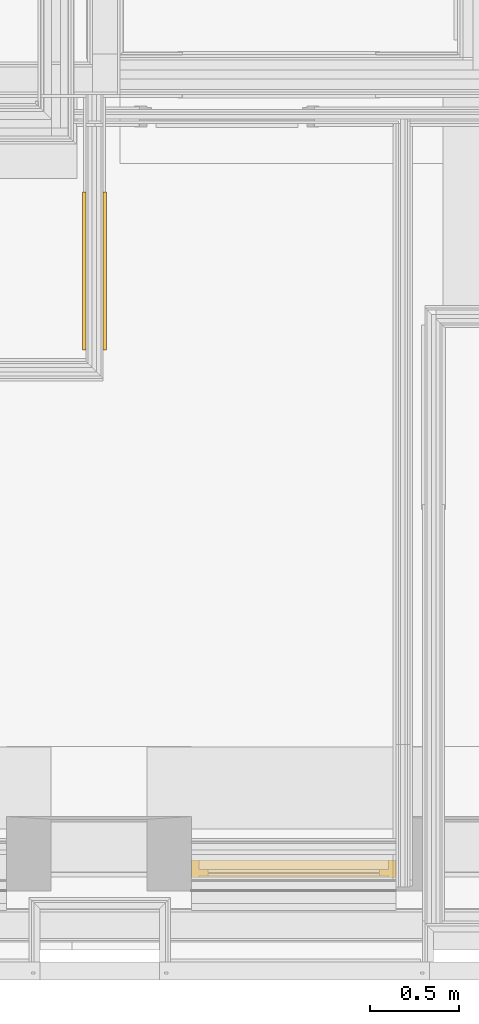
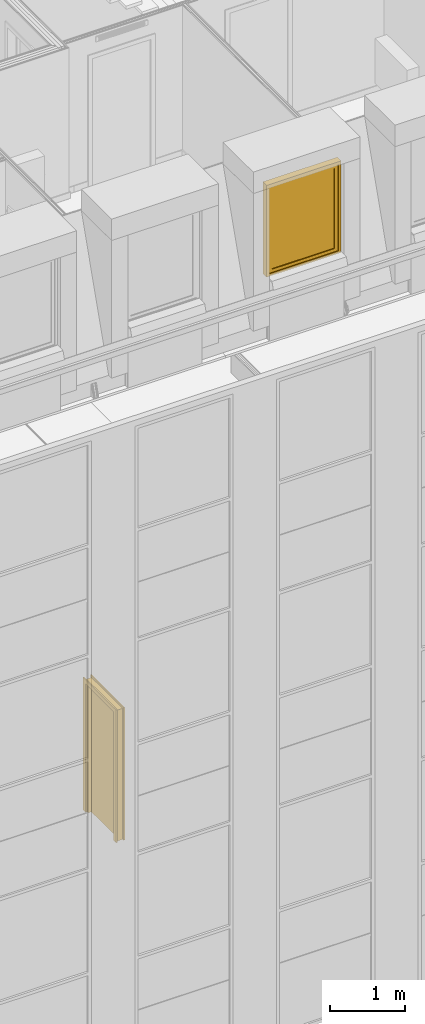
# One storey, part 123 of 169: 1 door, 1 window.
"""IFC2X3 building model written with IfcOpenShell, lengths in metres."""

import ifcopenshell
import ifcopenshell.guid

model = None  # the IFC model being written
_history = None  # IfcOwnerHistory: only IFC2X3 demands one
_inside = {}  # id of a spatial element -> (the spatial element, [elements in it])
_under = {}  # id of a project, library or spatial element -> (it, [spatial elements below it])
_declared = {}  # id of a project -> (the project, [libraries it declares])
_typed = {}  # id of a type object -> (the type object, [elements of that type])
_made_of = {}  # id of a material, layer set ... -> (it, [elements and type objects made of it])


def new_model(schema):
    """Start an empty IFC model of exactly this schema.

    Asked for "IFC4X3", IfcOpenShell would pick the latest addendum, in which some entities
    have other attributes; the version numbers below select the first issue.
    IFC2X3 requires an IfcOwnerHistory on every rooted entity: one is made here for all.
    """
    global model, _history
    if schema == "IFC4X3":
        model = ifcopenshell.file(schema_version=(4, 3, 0, 0))
    else:
        model = ifcopenshell.file(schema=schema)
    _inside.clear()
    _under.clear()
    _declared.clear()
    _typed.clear()
    _made_of.clear()
    _history = None
    if model.schema == "IFC2X3":
        org = make("IfcOrganization", Name="unknown")
        user = make(
            "IfcPersonAndOrganization",
            ThePerson=make("IfcPerson", FamilyName="unknown"),
            TheOrganization=org,
        )
        app = make(
            "IfcApplication",
            ApplicationDeveloper=org,
            Version="unknown",
            ApplicationFullName="unknown",
            ApplicationIdentifier="unknown",
        )
        _history = make(
            "IfcOwnerHistory",
            OwningUser=user,
            OwningApplication=app,
            ChangeAction="ADDED",
            CreationDate=0,
        )
    return model


def make(cls, **values):
    """One entity of the class cls with the attributes given. An attribute that is None is left unset."""
    return model.create_entity(
        cls, **{name: value for name, value in values.items() if value is not None}
    )


def entity(cls, *values):
    """Any entity or typed value of the class cls, its attributes in the order of the schema. None: left unset."""
    e = model.create_entity(cls)
    for i, value in enumerate(values):
        if value is not None:
            e[i] = value
    return e


def rooted(cls, **values):
    """An entity with a GlobalId (a new one), such as an element, a storey or a relation."""
    return make(cls, GlobalId=ifcopenshell.guid.new(), OwnerHistory=_history, **values)


def si_unit(unit_type, name, prefix=None):
    """IfcSIUnit, for example si_unit("LENGTHUNIT", "METRE", prefix="MILLI")."""
    return make("IfcSIUnit", UnitType=unit_type, Prefix=prefix, Name=name)


def converted_unit(unit_type, name, factor, base, dimensions=None, offset=None):
    """IfcConversionBasedUnit, such as the inch: factor (a typed value) times the base unit."""
    return make(
        "IfcConversionBasedUnit"
        if offset is None
        else "IfcConversionBasedUnitWithOffset",
        ConversionOffset=offset,
        Dimensions=None
        if dimensions is None
        else entity("IfcDimensionalExponents", *dimensions),
        UnitType=unit_type,
        Name=name,
        ConversionFactor=make(
            "IfcMeasureWithUnit", ValueComponent=factor, UnitComponent=base
        ),
    )


def derived_unit(unit_type, elements):
    """IfcDerivedUnit: a product of units, each with its exponent."""
    return make(
        "IfcDerivedUnit",
        Elements=[
            make("IfcDerivedUnitElement", Unit=unit, Exponent=power)
            for unit, power in elements
        ],
        UnitType=unit_type,
    )


def money_unit(currency):
    """IfcMonetaryUnit."""
    return make("IfcMonetaryUnit", Currency=currency)


def assignment(units):
    """IfcUnitAssignment: the units of a project."""
    return None if units is None else make("IfcUnitAssignment", Units=units)


def point(xyz):
    """IfcCartesianPoint."""
    return None if xyz is None else make("IfcCartesianPoint", Coordinates=xyz)


def direction(xyz):
    """IfcDirection."""
    return None if xyz is None else make("IfcDirection", DirectionRatios=xyz)


def frame(location, z_axis=None, x_axis=None):
    """IfcAxis2Placement3D, a coordinate frame: its origin and axes. An axis left out is left unset."""
    return make(
        "IfcAxis2Placement3D",
        Location=point(location),
        Axis=direction(z_axis),
        RefDirection=direction(x_axis),
    )


def origin_with_axes():
    """The frame at (0, 0, 0) with the z axis (0, 0, 1) and the x axis (1, 0, 0) written out."""
    return frame((0.0, 0.0, 0.0), z_axis=(0.0, 0.0, 1.0), x_axis=(1.0, 0.0, 0.0))


def place(relative_to, where):
    """IfcLocalPlacement: puts the frame where relative to a parent placement (None: the world)."""
    return make(
        "IfcLocalPlacement", PlacementRelTo=relative_to, RelativePlacement=where
    )


def context(
    kind, dimensions, precision=None, world=None, true_north=None, identifier=None
):
    """IfcGeometricRepresentationContext, for example the 3D "Model" context."""
    return make(
        "IfcGeometricRepresentationContext",
        ContextIdentifier=identifier,
        ContextType=kind,
        CoordinateSpaceDimension=dimensions,
        Precision=precision,
        WorldCoordinateSystem=world,
        TrueNorth=true_north,
    )


def subcontext(parent, identifier, kind, view, scale=None):
    """IfcGeometricRepresentationSubContext, for example "Body" below "Model"."""
    return make(
        "IfcGeometricRepresentationSubContext",
        ContextIdentifier=identifier,
        ContextType=kind,
        ParentContext=parent,
        TargetScale=scale,
        TargetView=view,
    )


def project(units=None, contexts=None):
    """IfcProject with its units and contexts."""
    return rooted(
        "IfcProject",
        Name="project",
        RepresentationContexts=contexts,
        UnitsInContext=assignment(units),
    )


def spatial(cls, under=None, at=None, **own):
    """A site, building, storey or space (cls), placed at a placement, below another one or the project."""
    s = rooted(cls, ObjectPlacement=at, **own)
    if under is not None:
        _under.setdefault(under.id(), (under, []))[1].append(s)
    return s


def faces_of(points, faces, orient=None, outer=None):
    """IfcFace entities. A face is a list of loops; a loop is a list of indices into points, from 0.

    orient and outer hold one flag for each loop. By default every Orientation is true, the
    first loop of a face is its IfcFaceOuterBound and the others are IfcFaceBound.
    """
    made = []
    for i, loops in enumerate(faces):
        bounds = []
        for j, loop in enumerate(loops):
            is_outer = j == 0 if outer is None else outer[i][j]
            bounds.append(
                make(
                    "IfcFaceOuterBound" if is_outer else "IfcFaceBound",
                    Bound=make("IfcPolyLoop", Polygon=[points[k] for k in loop]),
                    Orientation=True if orient is None else orient[i][j],
                )
            )
        made.append(make("IfcFace", Bounds=bounds))
    return made


def faceted_brep(points, faces, orient=None, outer=None, voids=None):
    """IfcFacetedBrep: a solid bounded by flat faces; with voids (closed shells), ...WithVoids."""
    shared = [point(p) for p in points]
    hull = make("IfcClosedShell", CfsFaces=faces_of(shared, faces, orient, outer))
    if voids is None:
        return make("IfcFacetedBrep", Outer=hull)
    return make(
        "IfcFacetedBrepWithVoids",
        Outer=hull,
        Voids=[
            make(cls, CfsFaces=faces_of(shared, fs, o, b)) for cls, fs, o, b in voids
        ],
    )


def shape(context_of_items, identifier, shape_type, items):
    """IfcShapeRepresentation: the items that make up one representation, for example the "Body"."""
    return make(
        "IfcShapeRepresentation",
        ContextOfItems=context_of_items,
        RepresentationIdentifier=identifier,
        RepresentationType=shape_type,
        Items=items,
    )


def material(Name=None, Category=None):
    """IfcMaterial."""
    return make("IfcMaterial", Name=Name, Category=Category)


def made_of(thing, what):
    """Note that an element or type object is made of a material, layer set ...; save() writes the relation."""
    if what is not None:
        _made_of.setdefault(what.id(), (what, []))[1].append(thing)
    return thing


def type_object(cls, material=None, **own):
    """A type object (cls), such as IfcWallType, which elements share."""
    return made_of(rooted(cls, **own), material)


def element(
    cls,
    number,
    at=None,
    inside=None,
    cuts=None,
    type_object=None,
    material=None,
    context=None,
    identifier="Body",
    shape_type=None,
    held_by="IfcProductDefinitionShape",
    body=None,
    shapes=None,
    **own,
):
    """One element of the class cls, such as IfcWall. Its Tag is "e" and its number.

    at: its placement. inside: the storey or other place that contains it. cuts: it is an
    opening in that element (IfcRelVoidsElement). A single representation is given by context,
    identifier, shape_type and body (its items); several are given by shapes. held_by: the class
    of the entity that holds the representations. save() writes the other relations.
    """
    e = rooted(cls, Tag="e%d" % number, ObjectPlacement=at, **own)
    if body is not None:
        shapes = [shape(context, identifier, shape_type, body)]
    if shapes is not None:
        e.Representation = make(held_by, Representations=shapes)
    if inside is not None:
        _inside.setdefault(inside.id(), (inside, []))[1].append(e)
    if cuts is not None:
        rooted(
            "IfcRelVoidsElement", RelatingBuildingElement=cuts, RelatedOpeningElement=e
        )
    if type_object is not None:
        _typed.setdefault(type_object.id(), (type_object, []))[1].append(e)
    return made_of(e, material)


def aggregate(whole, parts):
    """IfcRelAggregates: a whole, such as a stair, and the parts it consists of."""
    return rooted("IfcRelAggregates", RelatingObject=whole, RelatedObjects=parts)


def save(model, path):
    """Write the relations noted so far, then the file.

    IfcRelAggregates (storeys below a building ...), IfcRelContainedInSpatialStructure (elements
    in a storey), IfcRelDefinesByType, IfcRelAssociatesMaterial and IfcRelDeclares: one each for
    every whole, place, type object, material and project.
    """
    for whole, parts in _under.values():
        aggregate(whole, parts)
    for where, things in _inside.values():
        rooted(
            "IfcRelContainedInSpatialStructure",
            RelatedElements=things,
            RelatingStructure=where,
        )
    for kind, things in _typed.values():
        rooted("IfcRelDefinesByType", RelatedObjects=things, RelatingType=kind)
    for what, things in _made_of.values():
        rooted("IfcRelAssociatesMaterial", RelatedObjects=things, RelatingMaterial=what)
    for by, libraries in _declared.values():
        rooted("IfcRelDeclares", RelatingContext=by, RelatedDefinitions=libraries)
    model.write(path)


model = new_model("IFC2X3")

# Units and contexts
model_context = context("Model", 3, precision=1e-05, world=origin_with_axes(), true_north=direction((0.0, 1.0)))
body_context = subcontext(model_context, "Body", "Model", "MODEL_VIEW", scale=1.0)
ifc_project = project(units=[si_unit("LENGTHUNIT", "METRE"), si_unit("AREAUNIT", "SQUARE_METRE"), si_unit("VOLUMEUNIT", "CUBIC_METRE"), si_unit("ABSORBEDDOSEUNIT", "GRAY"), si_unit("AMOUNTOFSUBSTANCEUNIT", "MOLE"), si_unit("DOSEEQUIVALENTUNIT", "SIEVERT"), si_unit("ELECTRICCAPACITANCEUNIT", "FARAD"), si_unit("ELECTRICCHARGEUNIT", "COULOMB"), si_unit("ELECTRICCONDUCTANCEUNIT", "SIEMENS"), si_unit("ELECTRICCURRENTUNIT", "AMPERE"), si_unit("ELECTRICRESISTANCEUNIT", "OHM"), si_unit("ELECTRICVOLTAGEUNIT", "VOLT"), si_unit("ENERGYUNIT", "JOULE"), si_unit("FORCEUNIT", "NEWTON"), si_unit("FREQUENCYUNIT", "HERTZ"), si_unit("ILLUMINANCEUNIT", "LUX"), si_unit("INDUCTANCEUNIT", "HENRY"), si_unit("LUMINOUSFLUXUNIT", "LUMEN"), si_unit("LUMINOUSINTENSITYUNIT", "CANDELA"), si_unit("MAGNETICFLUXDENSITYUNIT", "TESLA"), si_unit("MAGNETICFLUXUNIT", "WEBER"), si_unit("MASSUNIT", "GRAM"), converted_unit("PLANEANGLEUNIT", "degree", entity("IfcReal", 0.0174532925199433), si_unit("PLANEANGLEUNIT", "RADIAN"), dimensions=[0, 0, 0, 0, 0, 0, 0]), si_unit("POWERUNIT", "WATT"), si_unit("PRESSUREUNIT", "PASCAL"), si_unit("RADIOACTIVITYUNIT", "BECQUEREL"), si_unit("SOLIDANGLEUNIT", "STERADIAN"), si_unit("THERMODYNAMICTEMPERATUREUNIT", "KELVIN"), si_unit("TIMEUNIT", "SECOND"), derived_unit("ACCELERATIONUNIT", [(si_unit("LENGTHUNIT", "METRE"), 1), (si_unit("TIMEUNIT", "SECOND"), -2)]), derived_unit("ANGULARVELOCITYUNIT", [(converted_unit("PLANEANGLEUNIT", "degree", entity("IfcReal", 0.0174532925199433), si_unit("PLANEANGLEUNIT", "RADIAN"), dimensions=[0, 0, 0, 0, 0, 0, 0]), 1), (si_unit("TIMEUNIT", "SECOND"), -1)]), derived_unit("CURVATUREUNIT", [(converted_unit("PLANEANGLEUNIT", "degree", entity("IfcReal", 0.0174532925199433), si_unit("PLANEANGLEUNIT", "RADIAN"), dimensions=[0, 0, 0, 0, 0, 0, 0]), 1), (si_unit("LENGTHUNIT", "METRE"), -1)]), derived_unit("DYNAMICVISCOSITYUNIT", [(si_unit("PRESSUREUNIT", "PASCAL"), 1), (si_unit("TIMEUNIT", "SECOND"), 1)]), derived_unit("HEATFLUXDENSITYUNIT", [(si_unit("POWERUNIT", "WATT"), 1), (si_unit("LENGTHUNIT", "METRE"), -2)]), derived_unit("HEATINGVALUEUNIT", [(si_unit("ENERGYUNIT", "JOULE"), 1), (si_unit("MASSUNIT", "GRAM"), -1)]), derived_unit("INTEGERCOUNTRATEUNIT", [(si_unit("TIMEUNIT", "SECOND"), -1)]), derived_unit("IONCONCENTRATIONUNIT", [(si_unit("MASSUNIT", "GRAM"), 1), (si_unit("VOLUMEUNIT", "CUBIC_METRE"), -1)]), derived_unit("ISOTHERMALMOISTURECAPACITYUNIT", [(si_unit("VOLUMEUNIT", "CUBIC_METRE"), 1), (si_unit("MASSUNIT", "GRAM"), -1)]), derived_unit("KINEMATICVISCOSITYUNIT", [(si_unit("AREAUNIT", "SQUARE_METRE"), 1), (si_unit("TIMEUNIT", "SECOND"), -1)]), derived_unit("LINEARFORCEUNIT", [(si_unit("FORCEUNIT", "NEWTON"), 1), (si_unit("LENGTHUNIT", "METRE"), -1)]), derived_unit("LINEARMOMENTUNIT", [(si_unit("FORCEUNIT", "NEWTON"), 1), (si_unit("LENGTHUNIT", "METRE"), -1)]), derived_unit("LINEARSTIFFNESSUNIT", [(si_unit("FORCEUNIT", "NEWTON"), 1), (si_unit("LENGTHUNIT", "METRE"), -1)]), derived_unit("LINEARVELOCITYUNIT", [(si_unit("LENGTHUNIT", "METRE"), 1), (si_unit("TIMEUNIT", "SECOND"), -1)]), derived_unit("LUMINOUSINTENSITYDISTRIBUTIONUNIT", [(si_unit("LUMINOUSINTENSITYUNIT", "CANDELA"), 1), (si_unit("LUMINOUSFLUXUNIT", "LUMEN"), -1)]), derived_unit("MASSDENSITYUNIT", [(si_unit("MASSUNIT", "GRAM"), 1), (si_unit("VOLUMEUNIT", "CUBIC_METRE"), -1)]), derived_unit("MASSFLOWRATEUNIT", [(si_unit("MASSUNIT", "GRAM"), 1), (si_unit("TIMEUNIT", "SECOND"), -1)]), derived_unit("MASSPERLENGTHUNIT", [(si_unit("MASSUNIT", "GRAM"), 1), (si_unit("LENGTHUNIT", "METRE"), -1)]), derived_unit("MODULUSOFELASTICITYUNIT", [(si_unit("FORCEUNIT", "NEWTON"), 1), (si_unit("AREAUNIT", "SQUARE_METRE"), -1)]), derived_unit("MODULUSOFLINEARSUBGRADEREACTIONUNIT", [(si_unit("FORCEUNIT", "NEWTON"), 1), (si_unit("LENGTHUNIT", "METRE"), -2)]), derived_unit("MODULUSOFROTATIONALSUBGRADEREACTIONUNIT", [(si_unit("FORCEUNIT", "NEWTON"), 1), (si_unit("LENGTHUNIT", "METRE"), 1)]), derived_unit("MODULUSOFSUBGRADEREACTIONUNIT", [(si_unit("FORCEUNIT", "NEWTON"), 1), (si_unit("VOLUMEUNIT", "CUBIC_METRE"), -1)]), derived_unit("MOISTUREDIFFUSIVITYUNIT", [(si_unit("VOLUMEUNIT", "CUBIC_METRE"), 1), (si_unit("TIMEUNIT", "SECOND"), -1)]), derived_unit("MOLECULARWEIGHTUNIT", [(si_unit("MASSUNIT", "GRAM"), 1), (si_unit("AMOUNTOFSUBSTANCEUNIT", "MOLE"), -1)]), derived_unit("PLANARFORCEUNIT", [(si_unit("FORCEUNIT", "NEWTON"), 1), (si_unit("LENGTHUNIT", "METRE"), -2)]), derived_unit("ROTATIONALFREQUENCYUNIT", [(si_unit("TIMEUNIT", "SECOND"), -1)]), derived_unit("ROTATIONALMASSUNIT", [(si_unit("MASSUNIT", "GRAM"), 1), (si_unit("LENGTHUNIT", "METRE"), 2)]), derived_unit("ROTATIONALSTIFFNESSUNIT", [(si_unit("FORCEUNIT", "NEWTON"), 1), (si_unit("LENGTHUNIT", "METRE"), 1), (converted_unit("PLANEANGLEUNIT", "degree", entity("IfcReal", 0.0174532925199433), si_unit("PLANEANGLEUNIT", "RADIAN"), dimensions=[0, 0, 0, 0, 0, 0, 0]), -1)]), derived_unit("SECTIONAREAINTEGRALUNIT", [(si_unit("LENGTHUNIT", "METRE"), 5)]), derived_unit("SECTIONMODULUSUNIT", [(si_unit("LENGTHUNIT", "METRE"), 3)]), derived_unit("SHEARMODULUSUNIT", [(si_unit("FORCEUNIT", "NEWTON"), 1), (si_unit("AREAUNIT", "SQUARE_METRE"), -1)]), derived_unit("SOUNDPOWERUNIT", [(si_unit("ENERGYUNIT", "JOULE"), 1), (si_unit("TIMEUNIT", "SECOND"), -1)]), derived_unit("SPECIFICHEATCAPACITYUNIT", [(si_unit("FORCEUNIT", "NEWTON"), 1), (si_unit("MASSUNIT", "GRAM"), -1), (si_unit("THERMODYNAMICTEMPERATUREUNIT", "KELVIN"), -1)]), derived_unit("TEMPERATUREGRADIENTUNIT", [(si_unit("THERMODYNAMICTEMPERATUREUNIT", "KELVIN"), 1), (si_unit("LENGTHUNIT", "METRE"), -1)]), derived_unit("THERMALADMITTANCEUNIT", [(si_unit("POWERUNIT", "WATT"), 1), (si_unit("AREAUNIT", "SQUARE_METRE"), -1), (si_unit("THERMODYNAMICTEMPERATUREUNIT", "KELVIN"), -1)]), derived_unit("THERMALCONDUCTANCEUNIT", [(si_unit("POWERUNIT", "WATT"), 1), (si_unit("LENGTHUNIT", "METRE"), -1), (si_unit("THERMODYNAMICTEMPERATUREUNIT", "KELVIN"), -1)]), derived_unit("THERMALEXPANSIONCOEFFICIENTUNIT", [(si_unit("THERMODYNAMICTEMPERATUREUNIT", "KELVIN"), -1)]), derived_unit("THERMALRESISTANCEUNIT", [(si_unit("AREAUNIT", "SQUARE_METRE"), 1), (si_unit("POWERUNIT", "WATT"), -1)]), derived_unit("THERMALTRANSMITTANCEUNIT", [(si_unit("POWERUNIT", "WATT"), 1), (si_unit("AREAUNIT", "SQUARE_METRE"), -1), (si_unit("THERMODYNAMICTEMPERATUREUNIT", "KELVIN"), -1)]), derived_unit("TORQUEUNIT", [(si_unit("FORCEUNIT", "NEWTON"), 1), (si_unit("LENGTHUNIT", "METRE"), 1)]), derived_unit("VAPORPERMEABILITYUNIT", [(si_unit("MASSUNIT", "GRAM"), 1), (si_unit("TIMEUNIT", "SECOND"), -1)]), derived_unit("VOLUMETRICFLOWRATEUNIT", [(si_unit("VOLUMEUNIT", "CUBIC_METRE"), 1), (si_unit("TIMEUNIT", "SECOND"), -1)]), derived_unit("WARPINGCONSTANTUNIT", [(si_unit("LENGTHUNIT", "METRE"), 6)]), derived_unit("WARPINGMOMENTUNIT", [(si_unit("FORCEUNIT", "NEWTON"), 1), (si_unit("LENGTHUNIT", "METRE"), 2)]), money_unit("GBP")], contexts=[model_context])

# Site, building, storey, space
site_placement = place(None, origin_with_axes())
site = spatial("IfcSite", under=ifc_project, at=site_placement, Name="Site", CompositionType="ELEMENT")
building_placement = place(site_placement, origin_with_axes())
building = spatial("IfcBuilding", under=site, at=building_placement, Name="Building01", CompositionType="ELEMENT")
storey_placement = place(building_placement, frame((0.0, 0.0, 5.15), z_axis=(0.0, 0.0, 1.0), x_axis=(1.0, 0.0, 0.0)))
storey = spatial("IfcBuildingStorey", under=building, at=storey_placement, Name="1F", CompositionType="ELEMENT", Elevation=5.15)
space_1_placement = place(storey_placement, frame((15.77, 4.717, 9.86), z_axis=(0.0, 0.0, 1.0), x_axis=(0.0, -1.0, 0.0)))
space_1 = spatial("IfcSpace", under=storey, at=space_1_placement, Name="1", CompositionType="ELEMENT", InteriorOrExteriorSpace="NOTDEFINED")

# Window
ifc_material_1 = material(Name="A_BSUK_Windows")
window_style = type_object("IfcWindowStyle", Name="A-Awning", ConstructionType="NOTDEFINED", OperationType="USERDEFINED", ParameterTakesPrecedence=False, Sizeable=False)
window_placement = place(storey_placement, frame((19.550024, 0.549939, 10.83), z_axis=(0.0, 0.0, 1.0), x_axis=(1.0, 0.0, 0.0)))
element("IfcWindow", 1, at=window_placement, inside=space_1, type_object=window_style, material=ifc_material_1, Name="4.08", ObjectType="A-Awning", OverallHeight=1.50000000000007, OverallWidth=1.15000000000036, context=body_context, shape_type="Brep", body=[
    faceted_brep([(-1.108, 0.0254, 0.042), (-0.042, 0.0254, 0.042), (-0.042, 0.1254, 0.042), (-1.108, 0.1254, 0.042), (-1.108, 0.0254, 1.458), (-1.108, 0.1254, 1.458), (-0.042, 0.0254, 1.458), (-0.042, 0.1254, 1.458), (0.0, 0.0254, 0.0), (0.0, 0.0254, 1.5), (-1.15, 0.0254, 1.5), (-1.15, 0.0254, 0.0), (0.0, 0.1254, 1.5), (-1.15, 0.1254, 1.5), (-1.15, 0.1254, 0.0), (0.0, 0.1254, 0.0)], [[[0, 1, 2, 3]], [[4, 0, 3, 5]], [[6, 4, 5, 7]], [[8, 9, 10, 11], [4, 6, 1, 0]], [[1, 6, 7, 2]], [[12, 13, 10, 9]], [[14, 15, 8, 11]], [[13, 14, 11, 10]], [[13, 12, 15, 14], [2, 7, 5, 3]], [[15, 12, 9, 8]]]),
    faceted_brep([(-1.0572, 0.0354, 0.0928), (-0.0928, 0.0354, 0.0928), (-0.0928, 0.0704, 0.0928), (-1.0572, 0.0704, 0.0928), (-1.0572, 0.0354, 1.4072), (-1.0572, 0.0704, 1.4072), (-0.0928, 0.0354, 1.4072), (-0.0928, 0.0704, 1.4072), (-1.108, 0.0704, 1.458), (-0.042, 0.0704, 1.458), (-0.042, 0.0704, 0.042), (-1.108, 0.0704, 0.042), (-1.108, 0.0354, 1.458), (-0.042, 0.0354, 1.458), (-0.042, 0.0354, 0.042), (-1.108, 0.0354, 0.042)], [[[0, 1, 2, 3]], [[4, 0, 3, 5]], [[6, 4, 5, 7]], [[8, 9, 10, 11], [2, 7, 5, 3]], [[9, 8, 12, 13]], [[10, 9, 13, 14]], [[11, 10, 14, 15]], [[8, 11, 15, 12]], [[14, 13, 12, 15], [4, 6, 1, 0]], [[1, 6, 7, 2]]]),
    faceted_brep([(-0.0928, 0.049725, 0.0928), (-0.0928, 0.056075, 0.0928), (-0.0928, 0.056075, 1.4072), (-0.0928, 0.049725, 1.4072), (-1.0572, 0.049725, 1.4072), (-1.0572, 0.056075, 1.4072), (-1.0572, 0.056075, 0.0928), (-1.0572, 0.049725, 0.0928)], [[[0, 1, 2, 3]], [[4, 5, 6, 7]], [[3, 2, 5, 4]], [[3, 4, 7, 0]], [[7, 6, 1, 0]], [[1, 6, 5, 2]]]),
])

# Space
space_2_placement = place(storey_placement, frame((14.85, 4.98, 0.017975), z_axis=(0.0, 0.0, 1.0), x_axis=(0.0, -1.0, 0.0)))
space_2 = spatial("IfcSpace", under=storey, at=space_2_placement, Name="04", CompositionType="ELEMENT", InteriorOrExteriorSpace="NOTDEFINED")

# Door
ifc_material_2 = material(Name="A_BSUK_Doors")
door_style = type_object("IfcDoorStyle", Name="A-Doors-SingleFlush", ConstructionType="USERDEFINED", OperationType="SINGLE_SWING_RIGHT", ParameterTakesPrecedence=False, Sizeable=False)
door_placement = place(storey_placement, frame((17.9025, 4.363781, 0.0), z_axis=(0.0, 0.0, 1.0), x_axis=(0.0, -1.0, 0.0)))
element("IfcDoor", 2, at=door_placement, inside=space_2, type_object=door_style, material=ifc_material_2, Name="1.13", ObjectType="A-Doors-SingleFlush", OverallHeight=2.16900000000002, OverallWidth=0.88800000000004, context=body_context, shape_type="Brep", body=[
    faceted_brep([(0.75, -0.114, 0.0), (0.819, -0.114, 0.0), (0.819, -0.114, 2.169), (-0.069, -0.114, 2.169), (-0.069, -0.114, 0.0), (0.0, -0.114, 0.0), (0.0, -0.114, 2.1), (0.75, -0.114, 2.1), (-0.069, -0.095, 0.0), (-0.069, -0.095, 2.169), (0.819, -0.095, 2.169), (0.819, -0.095, 0.0), (0.75, 0.019, 0.0), (0.819, 0.019, 0.0), (0.819, 0.0, 0.0), (0.792, 0.0, 0.0), (0.792, -0.095, 0.0), (0.75, 0.019, 2.1), (0.0, 0.019, 2.1), (0.0, 0.019, 0.0), (-0.069, 0.019, 0.0), (-0.069, 0.019, 2.169), (0.819, 0.019, 2.169), (0.819, 0.0, 2.169), (0.792, -0.095, 2.142), (0.792, 0.0, 2.142), (-0.042, -0.095, 2.142), (-0.042, 0.0, 2.142), (-0.042, -0.095, 0.0), (-0.042, 0.0, 0.0), (-0.069, 0.0, 2.169), (-0.069, 0.0, 0.0)], [[[0, 1, 2, 3, 4, 5, 6, 7]], [[8, 4, 3, 9]], [[10, 2, 1, 11]], [[9, 3, 2, 10]], [[12, 13, 14, 15, 16, 11, 1, 0]], [[7, 17, 12, 0]], [[6, 18, 17, 7]], [[18, 19, 20, 21, 22, 13, 12, 17]], [[5, 19, 18, 6]], [[13, 22, 23, 14]], [[24, 16, 15, 25]], [[26, 24, 25, 27]], [[11, 16, 24, 26, 28, 8, 9, 10]], [[27, 29, 28, 26]], [[25, 15, 14, 23, 30, 31, 29, 27]], [[5, 4, 8, 28, 29, 31, 20, 19]], [[30, 21, 20, 31]], [[23, 22, 21, 30]]]),
    faceted_brep([(0.0, -0.09, 2.1), (0.0, -0.04, 2.1), (0.0, -0.04, 0.0), (0.0, -0.09, 0.0), (0.725, -0.09, 0.0), (0.75, -0.09, 0.0), (0.75, -0.09, 2.1), (0.025, -0.09, 0.0), (0.025, -0.09, 2.075), (0.725, -0.09, 2.075), (0.725, -0.04, 0.0), (0.75, -0.04, 0.0), (0.75, -0.04, 2.1), (0.025, -0.04, 2.075), (0.025, -0.04, 0.0), (0.725, -0.04, 2.075)], [[[0, 1, 2, 3]], [[4, 5, 6, 0, 3, 7, 8, 9]], [[10, 11, 5, 4]], [[6, 12, 1, 0]], [[5, 11, 12, 6]], [[13, 14, 2, 1, 12, 11, 10, 15]], [[7, 14, 13, 8]], [[7, 3, 2, 14]], [[9, 15, 10, 4]], [[8, 13, 15, 9]]]),
    faceted_brep([(0.75, -0.04, 0.0), (0.75, 0.0, 0.0), (0.75, 0.0, 2.1), (0.75, -0.04, 2.1), (0.0, -0.04, 2.1), (0.0, 0.0, 2.1), (0.0, 0.0, 0.0), (0.0, -0.04, 0.0)], [[[0, 1, 2, 3]], [[4, 5, 6, 7]], [[7, 6, 1, 0]], [[3, 4, 7, 0]], [[3, 2, 5, 4]], [[1, 6, 5, 2]]]),
])

save(model, "model.ifc")
